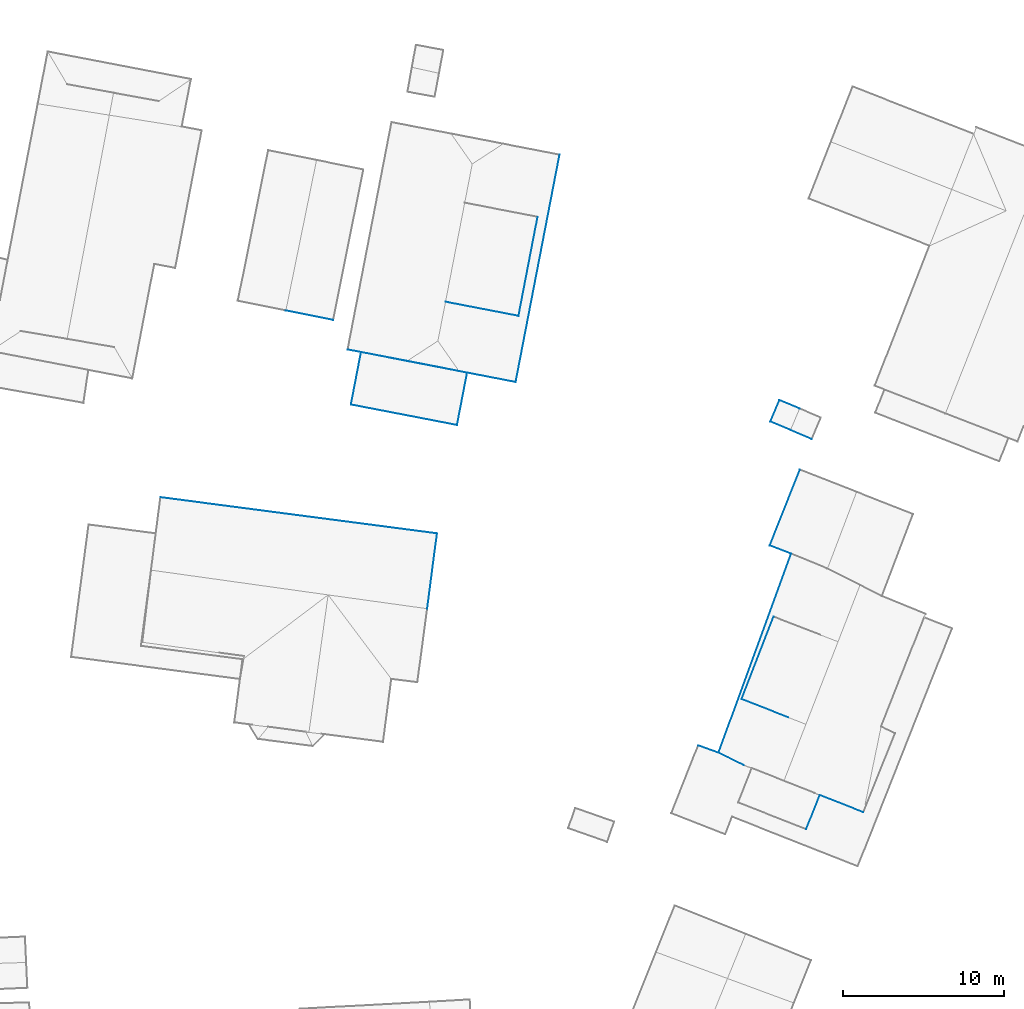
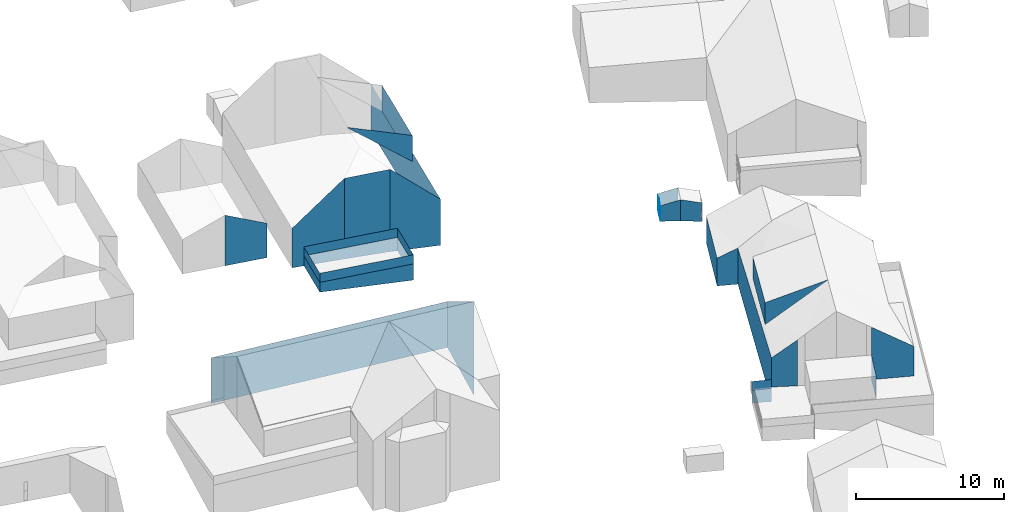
# Not in any storey, part 31 of 57: 36 walls.
"""IFC2X3 building model written with IfcOpenShell, lengths in metres."""

from ifc_helpers import new_model, entity, si_unit, converted_unit, frame, origin, place, context, subcontext, project, spatial, face_set, surface_model, element, save


model = new_model("IFC2X3")

# Units and contexts
model_context = context("Model", 3, precision=1e-05, world=origin())
body_context = subcontext(model_context, "Body", "Model", "MODEL_VIEW")
ifc_project = project(units=[converted_unit("PLANEANGLEUNIT", "DEGREE", entity("IfcRatioMeasure", 0.0174532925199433), si_unit("PLANEANGLEUNIT", "RADIAN"), dimensions=[0, 0, 0, 0, 0, 0, 0]), si_unit("AREAUNIT", "SQUARE_METRE"), si_unit("LENGTHUNIT", "METRE")], contexts=[model_context])

# Site, building
site_placement = place(None, origin())
site = spatial("IfcSite", under=ifc_project, at=site_placement, Name="_site", CompositionType="ELEMENT")
building_1_placement = place(site_placement, origin())
building_1 = spatial("IfcBuilding", under=site, at=building_1_placement, Name="_building", CompositionType="ELEMENT")

# Walls
wall_1_placement = place(building_1_placement, origin())
element("IfcWall", 1, at=wall_1_placement, inside=building_1, Name="Wall", context=body_context, shape_type="SurfaceModel", body=[
    surface_model("IfcFaceBasedSurfaceModel", [(247.115, 108.848, 116.72), (243.898, 109.473, 116.72), (243.898, 109.473, 110.073), (247.115, 108.848, 109.924)], [face_set([[[0, 1, 2, 3]]])]),
])
wall_2_placement = place(building_1_placement, origin())
element("IfcWall", 2, at=wall_2_placement, inside=building_1, Name="Wall", context=body_context, shape_type="SurfaceModel", body=[
    surface_model("IfcFaceBasedSurfaceModel", [(240.423, 106.773, 110.99), (241.049, 110.02, 110.99), (241.049, 110.02, 110.188), (240.423, 106.773, 110.184)], [face_set([[[0, 1, 2, 3]]])]),
])
wall_3_placement = place(building_1_placement, origin())
element("IfcWall", 3, at=wall_3_placement, inside=building_1, Name="Wall", context=body_context, shape_type="SurfaceModel", body=[
    surface_model("IfcFaceBasedSurfaceModel", [(247.623, 108.746, 110.99), (246.997, 105.499, 110.99), (246.997, 105.499, 109.654), (247.623, 108.746, 109.91)], [face_set([[[0, 1, 2, 3]]])]),
])
wall_4_placement = place(building_1_placement, origin())
element("IfcWall", 4, at=wall_4_placement, inside=building_1, Name="Wall", context=body_context, shape_type="SurfaceModel", body=[
    surface_model("IfcFaceBasedSurfaceModel", [(241.049, 110.02, 110.99), (247.623, 108.746, 110.99), (247.623, 108.746, 109.91), (241.049, 110.02, 110.188)], [face_set([[[0, 1, 2, 3]]])]),
])
wall_5_placement = place(building_1_placement, origin())
element("IfcWall", 5, at=wall_5_placement, inside=building_1, Name="Wall", context=body_context, shape_type="SurfaceModel", body=[
    surface_model("IfcFaceBasedSurfaceModel", [(250.807, 112.263, 116.15), (246.281, 113.141, 117.86), (246.281, 113.141, 117.81), (250.807, 112.263, 114.004)], [face_set([[[0, 1, 2, 3]]])]),
])
wall_6_placement = place(building_1_placement, origin())
element("IfcWall", 6, at=wall_6_placement, inside=building_1, Name="Wall", context=body_context, shape_type="SurfaceModel", body=[
    surface_model("IfcFaceBasedSurfaceModel", [(251.992, 118.399, 116.15), (250.807, 112.263, 116.15), (250.807, 112.263, 114.004), (251.992, 118.399, 114.013)], [face_set([[[0, 1, 2, 3]]])]),
])
wall_7_placement = place(building_1_placement, origin())
element("IfcWall", 7, at=wall_7_placement, inside=building_1, Name="Wall", context=body_context, shape_type="SurfaceModel", body=[
    surface_model("IfcFaceBasedSurfaceModel", [(246.997, 105.499, 110.99), (240.423, 106.773, 110.99), (240.423, 106.773, 110.184), (246.997, 105.499, 109.654)], [face_set([[[0, 1, 2, 3]]])]),
])
wall_8_placement = place(building_1_placement, origin())
element("IfcWall", 8, at=wall_8_placement, inside=building_1, Name="Wall", context=body_context, shape_type="SurfaceModel", body=[
    surface_model("IfcFaceBasedSurfaceModel", [(243.898, 109.473, 116.72), (240.222, 110.18, 113.45), (240.222, 110.18, 110.194), (243.898, 109.473, 110.073)], [face_set([[[0, 1, 2, 3]]])]),
])
wall_9_placement = place(building_1_placement, origin())
element("IfcWall", 9, at=wall_9_placement, inside=building_1, Name="Wall", context=body_context, shape_type="SurfaceModel", body=[
    surface_model("IfcFaceBasedSurfaceModel", [(250.631, 108.165, 113.45), (247.115, 108.848, 116.72), (247.115, 108.848, 109.924), (250.631, 108.165, 109.636)], [face_set([[[0, 1, 2, 3]]])]),
])
wall_10_placement = place(building_1_placement, origin())
element("IfcWall", 10, at=wall_10_placement, inside=building_1, Name="Wall", context=body_context, shape_type="SurfaceModel", body=[
    surface_model("IfcFaceBasedSurfaceModel", [(253.353, 122.25, 113.45), (250.631, 108.165, 113.45), (250.631, 108.165, 109.636), (253.353, 122.25, 109.508)], [face_set([[[0, 1, 2, 3]]])]),
])
wall_11_placement = place(building_1_placement, origin())
element("IfcWall", 11, at=wall_11_placement, inside=building_1, Name="Wall", context=body_context, shape_type="SurfaceModel", body=[
    surface_model("IfcFaceBasedSurfaceModel", [(240.423, 106.773, 110.99), (241.049, 110.02, 110.99), (241.049, 110.02, 111.74), (240.423, 106.773, 111.74)], [face_set([[[0, 1, 2, 3]]])]),
])
wall_12_placement = place(building_1_placement, origin())
element("IfcWall", 12, at=wall_12_placement, inside=building_1, Name="Wall", context=body_context, shape_type="SurfaceModel", body=[
    surface_model("IfcFaceBasedSurfaceModel", [(246.997, 105.499, 110.99), (240.423, 106.773, 110.99), (240.423, 106.773, 111.74), (246.997, 105.499, 111.74)], [face_set([[[0, 1, 2, 3]]])]),
])
wall_13_placement = place(building_1_placement, origin())
element("IfcWall", 13, at=wall_13_placement, inside=building_1, Name="Wall", context=body_context, shape_type="SurfaceModel", body=[
    surface_model("IfcFaceBasedSurfaceModel", [(247.623, 108.746, 110.99), (246.997, 105.499, 110.99), (246.997, 105.499, 111.74), (247.623, 108.746, 111.74)], [face_set([[[0, 1, 2, 3]]])]),
])
wall_14_placement = place(building_1_placement, origin())
element("IfcWall", 14, at=wall_14_placement, inside=building_1, Name="Wall", context=body_context, shape_type="SurfaceModel", body=[
    surface_model("IfcFaceBasedSurfaceModel", [(241.049, 110.02, 110.99), (247.623, 108.746, 110.99), (247.623, 108.746, 111.74), (241.049, 110.02, 111.74)], [face_set([[[0, 1, 2, 3]]])]),
])
wall_15_placement = place(building_1_placement, origin())
element("IfcWall", 15, at=wall_15_placement, inside=building_1, Name="Wall", context=body_context, shape_type="SurfaceModel", body=[
    surface_model("IfcFaceBasedSurfaceModel", [(247.623, 108.746, 110.99), (246.997, 105.499, 110.99), (246.997, 105.499, 111.74), (247.623, 108.746, 111.74)], [face_set([[[0, 1, 2, 3]]])]),
])
wall_16_placement = place(building_1_placement, origin())
element("IfcWall", 16, at=wall_16_placement, inside=building_1, Name="Wall", context=body_context, shape_type="SurfaceModel", body=[
    surface_model("IfcFaceBasedSurfaceModel", [(241.049, 110.02, 110.99), (247.623, 108.746, 110.99), (247.623, 108.746, 111.74), (241.049, 110.02, 111.74)], [face_set([[[0, 1, 2, 3]]])]),
])
wall_17_placement = place(building_1_placement, origin())
element("IfcWall", 17, at=wall_17_placement, inside=building_1, Name="Wall", context=body_context, shape_type="SurfaceModel", body=[
    surface_model("IfcFaceBasedSurfaceModel", [(240.423, 106.773, 110.99), (241.049, 110.02, 110.99), (241.049, 110.02, 111.74), (240.423, 106.773, 111.74)], [face_set([[[0, 1, 2, 3]]])]),
])
wall_18_placement = place(building_1_placement, origin())
element("IfcWall", 18, at=wall_18_placement, inside=building_1, Name="Wall", context=body_context, shape_type="SurfaceModel", body=[
    surface_model("IfcFaceBasedSurfaceModel", [(246.997, 105.499, 110.99), (240.423, 106.773, 110.99), (240.423, 106.773, 111.74), (246.997, 105.499, 111.74)], [face_set([[[0, 1, 2, 3]]])]),
])

# Building
building_2_placement = place(site_placement, origin())
building_2 = spatial("IfcBuilding", under=site, at=building_2_placement, Name="_building", CompositionType="ELEMENT")

# Walls
wall_19_placement = place(building_2_placement, origin())
element("IfcWall", 19, at=wall_19_placement, inside=building_2, Name="Wall", context=body_context, shape_type="SurfaceModel", body=[
    surface_model("IfcFaceBasedSurfaceModel", [(245.759, 98.783, 112.39), (245.15, 94.125, 115.44), (245.15, 94.125, 107.674), (245.759, 98.783, 108.605)], [face_set([[[0, 1, 2, 3]]])]),
])
wall_20_placement = place(building_2_placement, origin())
element("IfcWall", 20, at=wall_20_placement, inside=building_2, Name="Wall", context=body_context, shape_type="SurfaceModel", body=[
    surface_model("IfcFaceBasedSurfaceModel", [(228.621, 101.025, 112.39), (245.759, 98.783, 112.39), (245.759, 98.783, 108.605), (228.621, 101.025, 108.623)], [face_set([[[0, 1, 2, 3]]])]),
])

# Building
building_3_placement = place(site_placement, origin())
building_3 = spatial("IfcBuilding", under=site, at=building_3_placement, Name="_building", CompositionType="ELEMENT")

# Walls
wall_21_placement = place(building_3_placement, origin())
element("IfcWall", 21, at=wall_21_placement, inside=building_3, Name="Wall", context=body_context, shape_type="SurfaceModel", body=[
    surface_model("IfcFaceBasedSurfaceModel", [(272.181, 81.504, 109.92), (269.474, 82.568, 111.81), (269.474, 82.568, 107.48), (272.181, 81.504, 107.48)], [face_set([[[0, 1, 2, 3]]])]),
])
wall_22_placement = place(building_3_placement, origin())
element("IfcWall", 22, at=wall_22_placement, inside=building_3, Name="Wall", context=body_context, shape_type="SurfaceModel", body=[
    surface_model("IfcFaceBasedSurfaceModel", [(264.775, 84.429, 111.26), (263.202, 85.186, 109.89), (263.202, 85.186, 107.48), (264.775, 84.429, 107.48)], [face_set([[[0, 1, 2, 3]]])]),
])
wall_23_placement = place(building_3_placement, origin())
element("IfcWall", 23, at=wall_23_placement, inside=building_3, Name="Wall", context=body_context, shape_type="SurfaceModel", body=[
    surface_model("IfcFaceBasedSurfaceModel", [(263.202, 85.186, 109.89), (267.703, 97.529, 109.88), (267.703, 97.529, 106.9), (263.202, 85.186, 106.266)], [face_set([[[0, 1, 2, 3]]])]),
])
wall_24_placement = place(building_3_placement, origin())
element("IfcWall", 24, at=wall_24_placement, inside=building_3, Name="Wall", context=body_context, shape_type="SurfaceModel", body=[
    surface_model("IfcFaceBasedSurfaceModel", [(264.63, 88.515, 111.92), (266.611, 93.622, 111.92), (266.611, 93.622, 110.16), (264.63, 88.515, 110.121)], [face_set([[[0, 1, 2, 3]]])]),
])
wall_25_placement = place(building_3_placement, origin())
element("IfcWall", 25, at=wall_25_placement, inside=building_3, Name="Wall", context=body_context, shape_type="SurfaceModel", body=[
    surface_model("IfcFaceBasedSurfaceModel", [(268.616, 86.961, 113.35), (264.63, 88.515, 111.92), (264.63, 88.515, 110.121), (268.616, 86.961, 113.3)], [face_set([[[0, 1, 2, 3]]])]),
])
wall_26_placement = place(building_3_placement, origin())
element("IfcWall", 26, at=wall_26_placement, inside=building_3, Name="Wall", context=body_context, shape_type="SurfaceModel", body=[
    surface_model("IfcFaceBasedSurfaceModel", [(261.942, 85.646, 107.48), (263.202, 85.186, 107.48), (263.202, 85.186, 106.266), (261.942, 85.646, 106.333)], [face_set([[[0, 1, 2, 3]]])]),
])
wall_27_placement = place(building_3_placement, origin())
element("IfcWall", 27, at=wall_27_placement, inside=building_3, Name="Wall", context=body_context, shape_type="SurfaceModel", body=[
    surface_model("IfcFaceBasedSurfaceModel", [(269.474, 82.568, 109.51), (268.634, 80.447, 109.32), (268.634, 80.447, 107.48), (269.474, 82.568, 107.48)], [face_set([[[0, 1, 2, 3]]])]),
])
for number, where, name in (
    (28, (0.0, 0.0, 0.0), "Wall"),
    (29, (0.0, 0.0, 0.0), "Wall"),
):
    element("IfcWall", number, at=place(building_3_placement, frame(where)), inside=building_3, Name=name, context=body_context, shape_type="SurfaceModel", body=[
        surface_model("IfcFaceBasedSurfaceModel", [(263.202, 85.186, 107.35), (261.942, 85.646, 107.35), (261.942, 85.646, 108.1), (263.202, 85.186, 108.1)], [face_set([[[0, 1, 2, 3]]])]),
    ])

# Building
building_4_placement = place(site_placement, origin())
building_4 = spatial("IfcBuilding", under=site, at=building_4_placement, Name="_building", CompositionType="ELEMENT")

# Walls
wall_28_placement = place(building_4_placement, origin())
element("IfcWall", 30, at=wall_28_placement, inside=building_4, Name="Wall", context=body_context, shape_type="SurfaceModel", body=[
    surface_model("IfcFaceBasedSurfaceModel", [(266.374, 98.041, 109.21), (268.245, 102.739, 109.21), (268.245, 102.739, 106.988), (266.374, 98.041, 106.908)], [face_set([[[0, 1, 2, 3]]])]),
])
wall_29_placement = place(building_4_placement, origin())
element("IfcWall", 31, at=wall_29_placement, inside=building_4, Name="Wall", context=body_context, shape_type="SurfaceModel", body=[
    surface_model("IfcFaceBasedSurfaceModel", [(267.703, 97.529, 109.88), (266.374, 98.041, 109.21), (266.374, 98.041, 106.908), (267.703, 97.529, 106.9)], [face_set([[[0, 1, 2, 3]]])]),
])

# Building
building_5_placement = place(site_placement, origin())
building_5 = spatial("IfcBuilding", under=site, at=building_5_placement, Name="_building", CompositionType="ELEMENT")

# Wall
wall_30_placement = place(building_5_placement, origin())
element("IfcWall", 32, at=wall_30_placement, inside=building_5, Name="Wall", context=body_context, shape_type="SurfaceModel", body=[
    surface_model("IfcFaceBasedSurfaceModel", [(239.324, 112.012, 113.07), (236.386, 112.601, 114.42), (236.386, 112.601, 110.238), (239.324, 112.012, 110.241)], [face_set([[[0, 1, 2, 3]]])]),
])

# Building
building_6_placement = place(site_placement, origin())
building_6 = spatial("IfcBuilding", under=site, at=building_6_placement, Name="_building", CompositionType="ELEMENT")

# Walls
wall_31_placement = place(building_6_placement, origin())
element("IfcWall", 33, at=wall_31_placement, inside=building_6, Name="Wall", context=body_context, shape_type="SurfaceModel", body=[
    surface_model("IfcFaceBasedSurfaceModel", [(266.976, 107.052, 108.85), (268.224, 106.523, 109.23), (268.224, 106.523, 107.461), (266.976, 107.052, 107.6)], [face_set([[[0, 1, 2, 3]]])]),
])
wall_32_placement = place(building_6_placement, origin())
element("IfcWall", 34, at=wall_32_placement, inside=building_6, Name="Wall", context=body_context, shape_type="SurfaceModel", body=[
    surface_model("IfcFaceBasedSurfaceModel", [(266.414, 105.724, 108.85), (266.976, 107.052, 108.85), (266.976, 107.052, 107.6), (266.414, 105.724, 107.568)], [face_set([[[0, 1, 2, 3]]])]),
])
wall_33_placement = place(building_6_placement, origin())
element("IfcWall", 35, at=wall_33_placement, inside=building_6, Name="Wall", context=body_context, shape_type="SurfaceModel", body=[
    surface_model("IfcFaceBasedSurfaceModel", [(267.662, 105.195, 109.23), (266.414, 105.724, 108.85), (266.414, 105.724, 107.568), (267.662, 105.195, 107.471)], [face_set([[[0, 1, 2, 3]]])]),
])
wall_34_placement = place(building_6_placement, origin())
element("IfcWall", 36, at=wall_34_placement, inside=building_6, Name="Wall", context=body_context, shape_type="SurfaceModel", body=[
    surface_model("IfcFaceBasedSurfaceModel", [(268.98, 104.634, 108.85), (267.662, 105.195, 109.23), (267.662, 105.195, 107.471), (268.98, 104.634, 107.324)], [face_set([[[0, 1, 2, 3]]])]),
])

save(model, "model.ifc")
